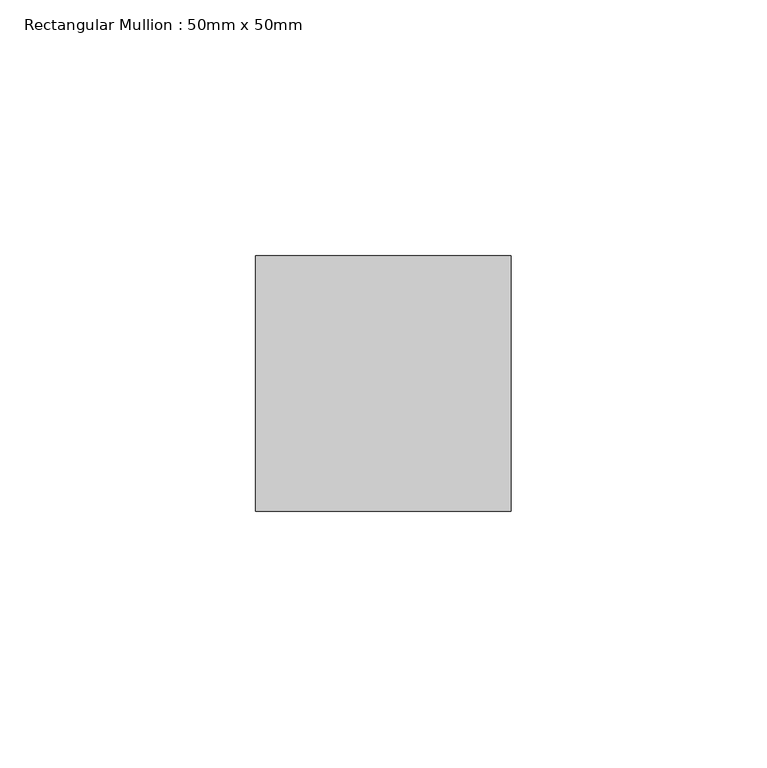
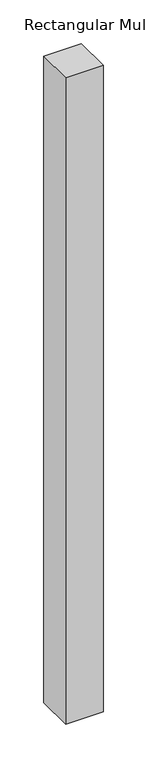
"""IFC4 building model written with IfcOpenShell, lengths in millimetres: member geometry, Rectangular Mullion : 50mm x 50mm."""

from ifc_helpers import new_model, si_unit, frame, origin, place, context, project, spatial, polyline, outline, extrude, source, transform, mapped, element, save


def rectangular_mullion_50mm_x_50mm_14c6a4c2(model_context):
    return source(origin(), model_context, "Body", "SweptSolid", [
        extrude(outline(polyline([(0.0, 25.0), (0.0, -25.0), (-50.0, -25.0), (-50.0, 25.0), (0.0, 25.0)])), frame((0.0, 0.0, -903.5130059), z_axis=(0.0, 0.0, 1.0), x_axis=(1.0, 0.0, 0.0)), (0.0, 0.0, 1.0), 903.5130059),
    ])


if __name__ == "__main__":
    model = new_model("IFC4")
    model_context = context("Model", 3, world=origin())
    ifc_project = project(units=[si_unit("LENGTHUNIT", "METRE", prefix="MILLI")], contexts=[model_context])
    site = spatial("IfcSite", under=ifc_project)
    building = spatial("IfcBuilding", under=site)
    placement = place(None, origin())
    rectangular_mullion_50mm_x_50mm_shape = rectangular_mullion_50mm_x_50mm_14c6a4c2(model_context)
    element("IfcMember", 1, ObjectType="Rectangular Mullion : 50mm x 50mm", at=placement, inside=building, context=model_context, shape_type="MappedRepresentation", body=[
        mapped(rectangular_mullion_50mm_x_50mm_shape, transform((0.0, 0.0, 0.0), x_axis=(1.0, 0.0, 0.0), y_axis=(0.0, 1.0, 0.0), z_axis=(0.0, 0.0, 1.0))),
    ])
    save(model, "model.ifc")
